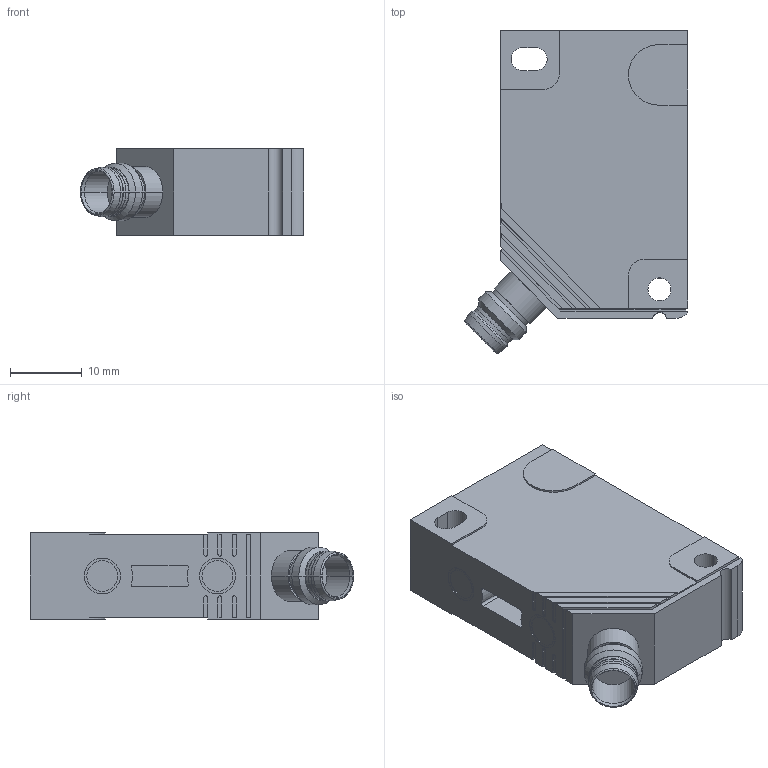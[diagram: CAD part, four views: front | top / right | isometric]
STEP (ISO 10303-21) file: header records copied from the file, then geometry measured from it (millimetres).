
FILE_DESCRIPTION( ( '' ), '1' );
FILE_NAME( '//partserver001.servicenet/client_exchange/iodir/jobs/output/wkb10605640_no0/STEP/in5230_2_03.stp', '2008-05-15T14:14:14', ( '' ), ( '' ), ' ', ' ', ' ' );
FILE_SCHEMA( ( 'CONFIG_CONTROL_DESIGN' ) );
Length unit declared in the file: millimetre
Products named in the file (1): 1
Bounding box: 30.98 x 44.92 x 12 mm (x, y, z)
Volume: 11568.7 mm3; surface area: 4371.9 mm2
Topology: 1 solids, 1 shells, 236 faces, 613 edges, 401 vertices
Faces by surface type: plane 156, cylinder 68, cone 10, torus 2
Entity records: 7238 total; most frequent: CARTESIAN_POINT 1251, DIRECTION 1240, ORIENTED_EDGE 1226, EDGE_CURVE 613, LINE 460, VECTOR 460, VERTEX_POINT 401, AXIS2_PLACEMENT_3D 390
